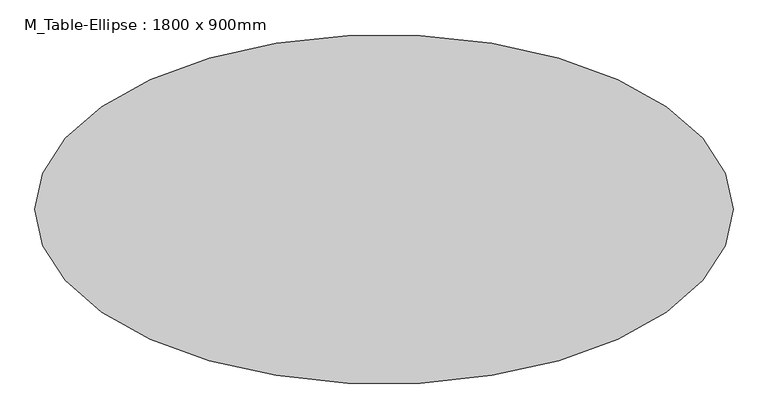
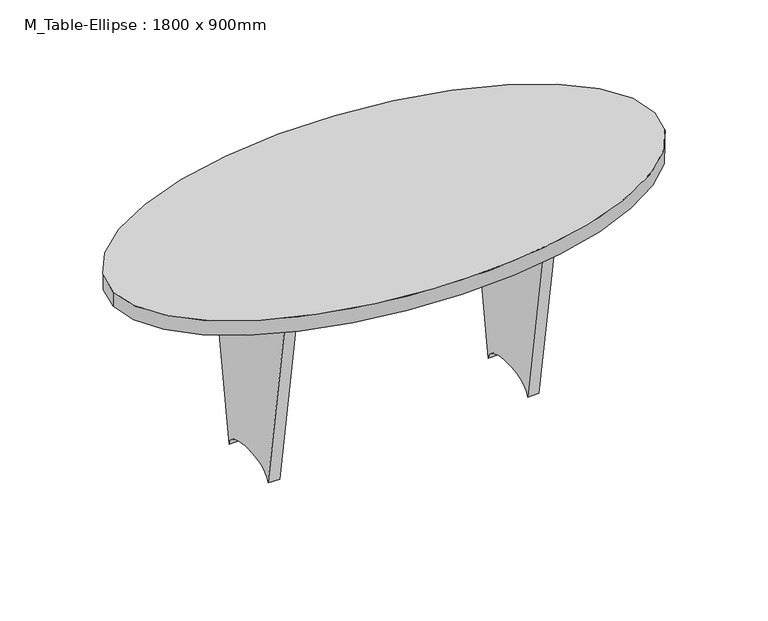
"""IFC4 building model written with IfcOpenShell, lengths in millimetres: furniture geometry, M_Table-Ellipse : 1800 x 900mm."""

from ifc_helpers import new_model, si_unit, point, frame, origin, place, context, project, spatial, ellipse_curve, trimmed, source, transform, mapped, element, save
from ifc_brep_helpers import plane_surface, extruded_surface, advanced_brep


def m_table_ellipse_1800_x_900mm_fd46d5a5(model_context):
    return source(origin(), model_context, "Body", "AdvancedBrep", [
        advanced_brep(
        [(-411.9, 19.05, 709.2), (411.9, 19.05, 709.2), (411.9, 19.05, 472.8), (-411.9, 19.05, 472.8), (-411.9, -19.05, 709.2), (-411.9, -19.05, 472.8), (411.9, -19.05, 472.8), (411.9, -19.05, 709.2)],
        [
            (0, 1),
            (1, 2),
            (2, 3, ellipse_curve(frame((0.0, 19.05, 472.8), z_axis=(0.0, -1.0, 0.0), x_axis=(1.0, 0.0, 0.0)), 411.9, 101.6)),
            (3, 0),
            (4, 5),
            (5, 6, ellipse_curve(frame((0.0, -19.05, 472.8), z_axis=(0.0, 1.0, 0.0), x_axis=(1.0, 0.0, 0.0)), 411.9, 101.6)),
            (6, 7),
            (7, 4),
            (0, 4),
            (7, 1),
            (6, 2),
            (5, 3),
        ],
        [
            plane_surface(frame((-411.9, 19.05, 709.2), z_axis=(0.0, 1.0, 0.0), x_axis=(1.0, 0.0, 0.0))),
            plane_surface(frame((-411.9, -19.05, 709.2), z_axis=(0.0, -1.0, 0.0), x_axis=(-1.0, 0.0, 0.0))),
            plane_surface(frame((-411.9, 19.05, 709.2), z_axis=(0.0, 0.0, 1.0), x_axis=(0.0, -1.0, 0.0))),
            plane_surface(frame((411.9, 19.05, 709.2), z_axis=(1.0, 0.0, 0.0), x_axis=(0.0, -1.0, 0.0))),
            extruded_surface(trimmed(ellipse_curve(frame((0.0, -57.15, 472.8), z_axis=(0.0, -1.0, 0.0), x_axis=(1.0, 0.0, 0.0)), 411.9, 101.6), [point((411.9, -57.15, 472.8))], [point((-411.9, -57.15, 472.8))], True, "CARTESIAN"), (0.0, 38.099999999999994, 0.0), 38.099999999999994),
            plane_surface(frame((-411.9, 19.05, 472.8), z_axis=(-1.0, 0.0, 0.0), x_axis=(0.0, -1.0, 0.0))),
        ],
        [
            (0, [[1, 2, 3, 4]]),
            (1, [[5, 6, 7, 8]]),
            (2, [[-1, 9, -8, 10]]),
            (3, [[-2, -10, -7, 11]]),
            (4, [[-3, -11, -6, 12]]),
            (5, [[-4, -12, -5, -9]]),
        ],
    ),
        advanced_brep(
        [(450.0, 225.0, 709.2), (450.0, -225.0, 709.2), (450.0, -112.5, 0.0), (450.0, 112.5, 0.0), (411.9, 225.0, 709.2), (411.9, 112.5, 0.0), (411.9, -112.5, 0.0), (411.9, -225.0, 709.2)],
        [
            (0, 1),
            (1, 2),
            (2, 3, ellipse_curve(frame((450.0, 0.0, 0.0), z_axis=(-1.0, 0.0, 0.0), x_axis=(0.0, 1.0, 0.0)), 112.5, 50.8)),
            (3, 0),
            (4, 5),
            (5, 6, ellipse_curve(frame((411.9, 0.0, 0.0), z_axis=(1.0, 0.0, 0.0), x_axis=(0.0, 1.0, 0.0)), 112.5, 50.8)),
            (6, 7),
            (7, 4),
            (0, 4),
            (7, 1),
            (6, 2),
            (5, 3),
        ],
        [
            plane_surface(frame((450.0, -225.0, 709.2), z_axis=(1.0, 0.0, 0.0), x_axis=(0.0, -1.0, 0.0))),
            plane_surface(frame((411.9, -225.0, 709.2), z_axis=(-1.0, 0.0, 0.0), x_axis=(0.0, 1.0, 0.0))),
            plane_surface(frame((450.0, 225.0, 709.2), z_axis=(0.0, 0.0, 1.0), x_axis=(-1.0, 0.0, 0.0))),
            plane_surface(frame((450.0, -225.0, 709.2), z_axis=(0.0, -0.9876509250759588, -0.1566705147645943), x_axis=(-1.0, 0.0, 0.0))),
            extruded_surface(trimmed(ellipse_curve(frame((373.8, 0.0, 0.0), z_axis=(-1.0, 0.0, 0.0), x_axis=(0.0, 1.0, 0.0)), 112.5, 50.8), [point((373.8, -112.5, 0.0))], [point((373.8, 112.5, 0.0))], True, "CARTESIAN"), (38.099999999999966, 0.0, 0.0), 38.099999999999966),
            plane_surface(frame((450.0, 112.5, 0.0), z_axis=(0.0, 0.9876509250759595, -0.1566705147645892), x_axis=(-1.0, 0.0, 0.0))),
        ],
        [
            (0, [[1, 2, 3, 4]]),
            (1, [[5, 6, 7, 8]]),
            (2, [[-1, 9, -8, 10]]),
            (3, [[-2, -10, -7, 11]]),
            (4, [[-3, -11, -6, 12]]),
            (5, [[-4, -12, -5, -9]]),
        ],
    ),
        advanced_brep(
        [(-411.9, 225.0, 709.2), (-411.9, -225.0, 709.2), (-411.9, -112.5, 0.0), (-411.9, 112.5, 0.0), (-450.0, 225.0, 709.2), (-450.0, 112.5, 0.0), (-450.0, -112.5, 0.0), (-450.0, -225.0, 709.2)],
        [
            (0, 1),
            (1, 2),
            (2, 3, ellipse_curve(frame((-411.9, 0.0, 0.0), z_axis=(-1.0, 0.0, 0.0), x_axis=(0.0, 1.0, 0.0)), 112.5, 50.8)),
            (3, 0),
            (4, 5),
            (5, 6, ellipse_curve(frame((-450.0, 0.0, 0.0), z_axis=(1.0, 0.0, 0.0), x_axis=(0.0, 1.0, 0.0)), 112.5, 50.8)),
            (6, 7),
            (7, 4),
            (0, 4),
            (7, 1),
            (6, 2),
            (5, 3),
        ],
        [
            plane_surface(frame((-411.9, -225.0, 709.2), z_axis=(1.0, 0.0, 0.0), x_axis=(0.0, -1.0, 0.0))),
            plane_surface(frame((-450.0, -225.0, 709.2), z_axis=(-1.0, 0.0, 0.0), x_axis=(0.0, 1.0, 0.0))),
            plane_surface(frame((-411.9, 225.0, 709.2), z_axis=(0.0, 0.0, 1.0), x_axis=(-1.0, 0.0, 0.0))),
            plane_surface(frame((-411.9, -225.0, 709.2), z_axis=(0.0, -0.9876509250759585, -0.15667051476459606), x_axis=(-1.0, 0.0, 0.0))),
            extruded_surface(trimmed(ellipse_curve(frame((-488.1, 0.0, 0.0), z_axis=(-1.0, 0.0, 0.0), x_axis=(0.0, 1.0, 0.0)), 112.5, 50.8), [point((-488.1, -112.5, 0.0))], [point((-488.1, 112.5, 0.0))], True, "CARTESIAN"), (38.10000000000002, 0.0, 0.0), 38.10000000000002),
            plane_surface(frame((-411.9, 112.5, 0.0), z_axis=(0.0, 0.9876509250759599, -0.1566705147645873), x_axis=(-1.0, 0.0, 0.0))),
        ],
        [
            (0, [[1, 2, 3, 4]]),
            (1, [[5, 6, 7, 8]]),
            (2, [[-1, 9, -8, 10]]),
            (3, [[-2, -10, -7, 11]]),
            (4, [[-3, -11, -6, 12]]),
            (5, [[-4, -12, -5, -9]]),
        ],
    ),
        advanced_brep(
        [(-900.0, 0.0, 760.0), (900.0, 0.0, 760.0), (-900.0, 0.0, 709.2), (900.0, 0.0, 709.2)],
        [
            (0, 1, ellipse_curve(frame((0.0, 0.0, 760.0), z_axis=(0.0, 0.0, 1.0), x_axis=(1.0, 0.0, 0.0)), 900.0, 450.0)),
            (1, 0, ellipse_curve(frame((0.0, 0.0, 760.0), z_axis=(0.0, 0.0, 1.0), x_axis=(1.0, 0.0, 0.0)), 900.0, 450.0)),
            (2, 3, ellipse_curve(frame((0.0, 0.0, 709.2), z_axis=(0.0, 0.0, -1.0), x_axis=(1.0, 0.0, 0.0)), 900.0, 450.0)),
            (3, 2, ellipse_curve(frame((0.0, 0.0, 709.2), z_axis=(0.0, 0.0, -1.0), x_axis=(1.0, 0.0, 0.0)), 900.0, 450.0)),
            (0, 2),
            (3, 1),
        ],
        [
            plane_surface(frame((900.0, 0.0, 760.0), z_axis=(0.0, 0.0, 1.0), x_axis=(0.0, 1.0, 0.0))),
            plane_surface(frame((900.0, 0.0, 709.2), z_axis=(0.0, 0.0, -1.0), x_axis=(0.0, -1.0, 0.0))),
            extruded_surface(trimmed(ellipse_curve(frame((0.0, 0.0, 658.4), z_axis=(0.0, 0.0, 1.0), x_axis=(1.0, 0.0, 0.0)), 900.0, 450.0), [point((-900.0, 0.0, 658.4))], [point((900.0, 0.0, 658.4))], True, "CARTESIAN"), (0.0, 0.0, 50.80000000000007), 50.80000000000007),
            extruded_surface(trimmed(ellipse_curve(frame((0.0, 0.0, 658.4), z_axis=(0.0, 0.0, 1.0), x_axis=(1.0, 0.0, 0.0)), 900.0, 450.0), [point((900.0, 0.0, 658.4))], [point((-900.0, 0.0, 658.4))], True, "CARTESIAN"), (0.0, 0.0, 50.80000000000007), 50.80000000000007),
        ],
        [
            (0, [[1, 2]]),
            (1, [[3, 4]]),
            (2, [[-1, 5, -4, 6]]),
            (3, [[-2, -6, -3, -5]]),
        ],
    ),
    ])


if __name__ == "__main__":
    model = new_model("IFC4")
    model_context = context("Model", 3, world=origin())
    ifc_project = project(units=[si_unit("LENGTHUNIT", "METRE", prefix="MILLI")], contexts=[model_context])
    site = spatial("IfcSite", under=ifc_project)
    building = spatial("IfcBuilding", under=site)
    placement = place(None, origin())
    m_table_ellipse_1800_x_900mm_shape = m_table_ellipse_1800_x_900mm_fd46d5a5(model_context)
    element("IfcFurniture", 1, ObjectType="M_Table-Ellipse : 1800 x 900mm", at=placement, inside=building, context=model_context, shape_type="MappedRepresentation", body=[
        mapped(m_table_ellipse_1800_x_900mm_shape, transform((0.0, 0.0, 0.0), x_axis=(1.0, 0.0, 0.0), y_axis=(0.0, 1.0, 0.0), z_axis=(0.0, 0.0, 1.0))),
    ])
    save(model, "model.ifc")
